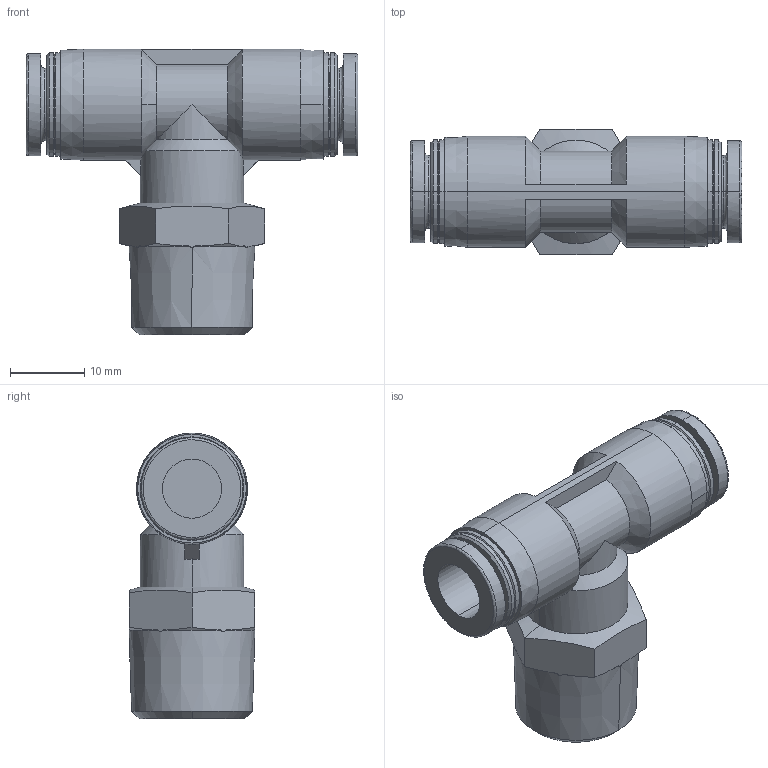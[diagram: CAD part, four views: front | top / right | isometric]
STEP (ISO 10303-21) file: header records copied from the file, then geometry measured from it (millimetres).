
FILE_DESCRIPTION (( 'STEP AP214' ), '1' );
FILE_NAME ('APT8-03.STEP', '2019-12-05T08:34:51', ( '微软用户' ), ( '微软中国' ), 'SwSTEP 2.0', 'SolidWorks 2016', '' );
FILE_SCHEMA (( 'AUTOMOTIVE_DESIGN' ));
Length unit declared in the file: millimetre
Products named in the file (1): APT8-03
Bounding box: 44.8 x 17 x 38.6 mm (x, y, z)
Volume: 10048.6 mm3; surface area: 5062.4 mm2
Topology: 1 solids, 1 shells, 105 faces, 261 edges, 166 vertices
Faces by surface type: cone 44, cylinder 28, plane 25, bspline 8
Entity records: 3713 total; most frequent: CARTESIAN_POINT 1269, ORIENTED_EDGE 522, DIRECTION 499, EDGE_CURVE 261, AXIS2_PLACEMENT_3D 210, VERTEX_POINT 166, EDGE_LOOP 113, CIRCLE 112
